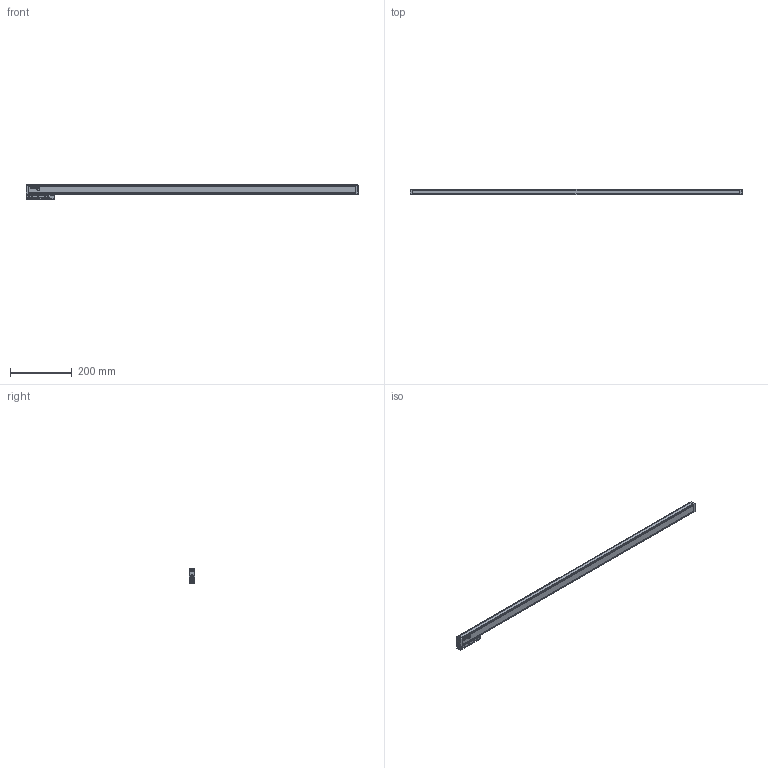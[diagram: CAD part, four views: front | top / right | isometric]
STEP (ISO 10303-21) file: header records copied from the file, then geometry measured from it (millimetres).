
FILE_DESCRIPTION(('Creo Elements/Direct Modeling STEP Export'),'2;1');
FILE_NAME('REGLA_SV3-970.stp','2020-10-30T13:40:44',(''),(''),'Creo Elements/Direct Modeling STEP processor for AP214 (Solid Model)','Creo Elements/Direct Modeling 19.0G 27-Nov-2017 (C) Parametric Technology GmbH','');
FILE_SCHEMA(('AUTOMOTIVE_DESIGN { 1 0 10303 214 1 1 1 1 }'));
Length unit declared in the file: millimetre
Products named in the file (4): PERFIL_REGLA_SV3-970; CABEZA_RANURADA_REGLA_S3
Assembly tree (2 placements, depth 2):
  PERFIL_REGLA_SV3-970
    PERFIL_REGLA_SV3-970
  CABEZA_RANURADA_REGLA_S3
    CABEZA_RANURADA_REGLA_S3
Bounding box: 1075 x 18.3 x 46.2 mm (x, y, z)
Volume: 598449.5 mm3; surface area: 143755.1 mm2
Topology: 2 solids, 25 shells, 1508 faces, 4919 edges, 3517 vertices
Faces by surface type: plane 988, cylinder 369, cone 134, bspline 9, torus 8
Entity records: 63844 total; most frequent: CARTESIAN_POINT 12641, ORIENTED_EDGE 9818, DIRECTION 7788, EDGE_CURVE 4907, VECTOR 3690, LINE 3690, VERTEX_POINT 3517, AXIS2_PLACEMENT_3D 2049
